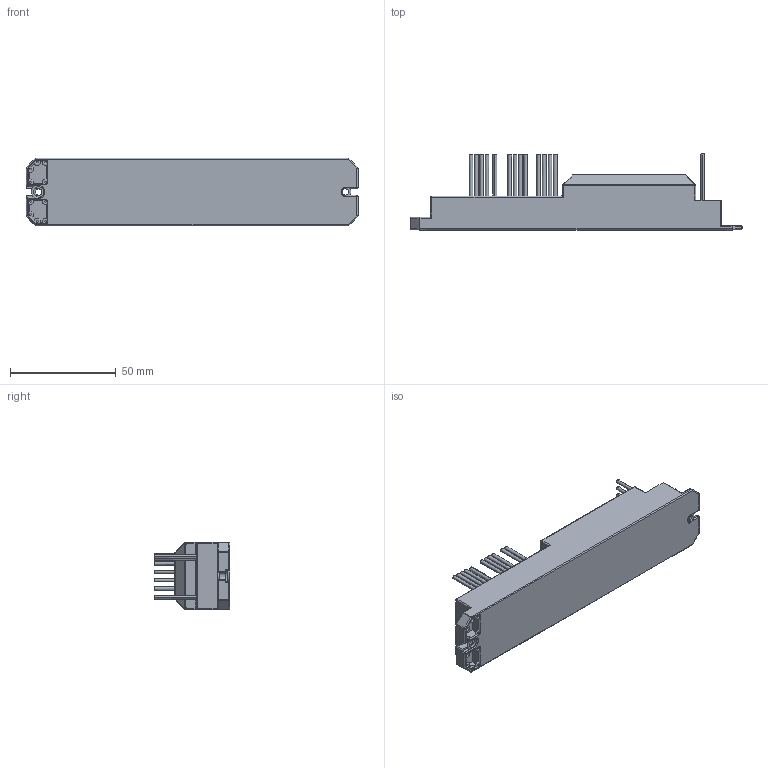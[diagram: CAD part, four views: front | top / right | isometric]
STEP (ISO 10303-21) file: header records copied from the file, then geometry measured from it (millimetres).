
FILE_DESCRIPTION((''),'2;1');
FILE_NAME('CF16_ASM_ASM','2020-08-19T',('USER'),(''),'PRO/ENGINEER BY PARAMETRIC TECHNOLOGY CORPORATION, 2008090','PRO/ENGINEER BY PARAMETRIC TECHNOLOGY CORPORATION, 2008090','');
FILE_SCHEMA(('CONFIG_CONTROL_DESIGN'));
Products named in the file (1): CF16_ASM_ASM
Bounding box: 156.8 x 35.85 x 32 mm (x, y, z)
Surface area: 44898.6 mm2 (no closed solid volume)
Topology: 0 solids, 0 shells, 1381 faces, 8358 edges, 8296 vertices
Faces by surface type: bspline 1320, sphere 34, torus 27
Entity records: 110376 total; most frequent: CARTESIAN_POINT 33784, DIRECTION 12194, TRIMMED_CURVE 11400, VECTOR 10728, LINE 10728, DEFINITIONAL_REPRESENTATION 8262, PCURVE 8262, COMPOSITE_CURVE_SEGMENT 8262
